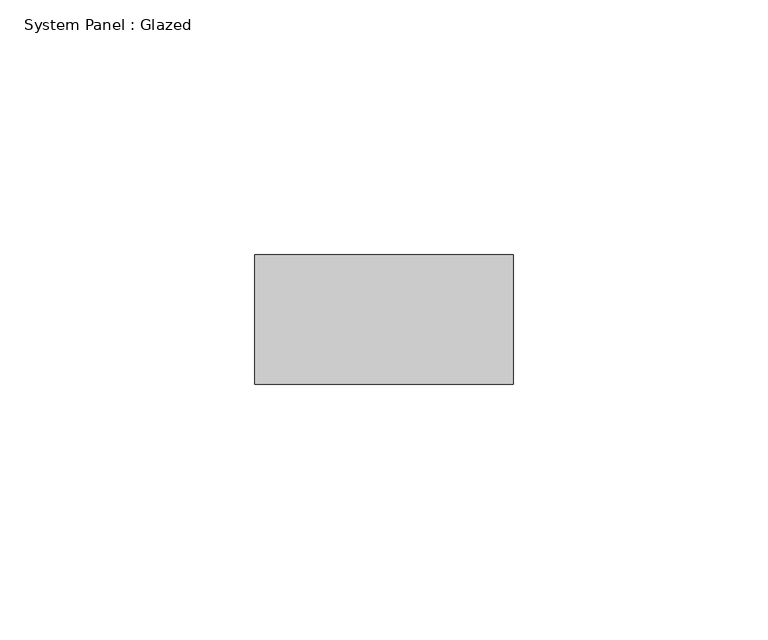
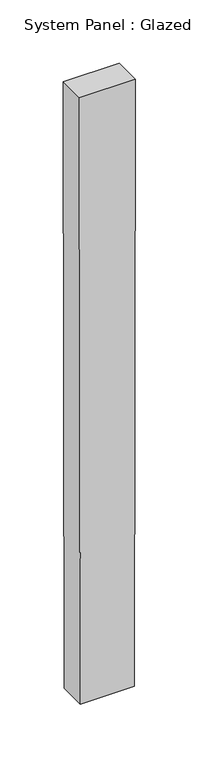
"""IFC4 building model written with IfcOpenShell, lengths in millimetres: plate geometry, System Panel : Glazed."""

from ifc_helpers import new_model, si_unit, frame, origin, place, context, project, spatial, polyline, outline, extrude, source, transform, mapped, element, save


def system_panel_glazed_cdd05a29(model_context):
    return source(origin(), model_context, "Body", "SweptSolid", [
        extrude(outline(polyline([(0.0, -24.726298), (0.0, 24.726298), (584.1996449, 25.3569011), (584.1996449, -25.3569011), (0.0, -24.726298)])), frame((0.0, 19.05, 0.0), z_axis=(0.0, 1.0, 0.0), x_axis=(0.0, 0.0, 1.0)), (0.0, 0.0, 1.0), 25.4),
    ])


if __name__ == "__main__":
    model = new_model("IFC4")
    model_context = context("Model", 3, world=origin())
    ifc_project = project(units=[si_unit("LENGTHUNIT", "METRE", prefix="MILLI")], contexts=[model_context])
    site = spatial("IfcSite", under=ifc_project)
    building = spatial("IfcBuilding", under=site)
    placement = place(None, origin())
    system_panel_glazed_shape = system_panel_glazed_cdd05a29(model_context)
    element("IfcPlate", 1, ObjectType="System Panel : Glazed", at=placement, inside=building, context=model_context, shape_type="MappedRepresentation", body=[
        mapped(system_panel_glazed_shape, transform((0.0, 0.0, 0.0), x_axis=(1.0, 0.0, 0.0), y_axis=(0.0, 1.0, 0.0), z_axis=(0.0, 0.0, 1.0))),
    ])
    save(model, "model.ifc")
